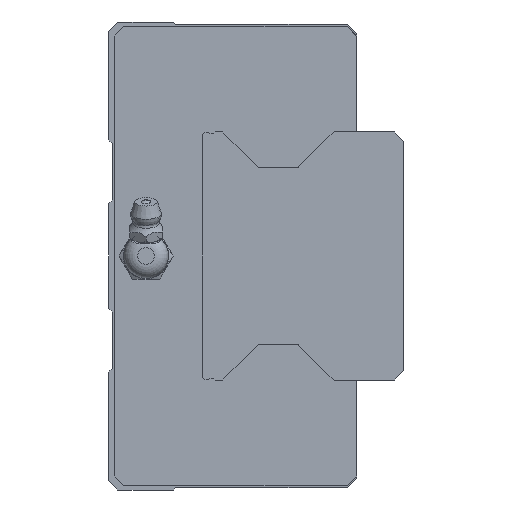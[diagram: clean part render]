
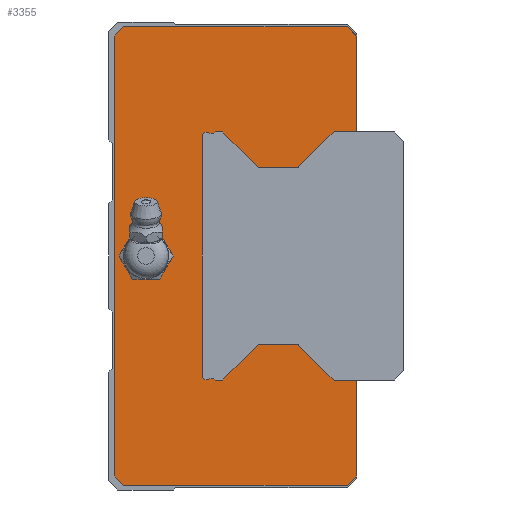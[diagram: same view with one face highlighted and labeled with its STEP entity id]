
A CAD part, left-side view. The second image highlights one B-rep face of the part: STEP entity #3355.
In plain terms, the highlighted planar face has unit normal (-1, 0, 0).
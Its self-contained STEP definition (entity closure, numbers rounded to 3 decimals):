
#169=CIRCLE('',#3668,4.864);
#170=CIRCLE('',#3669,0.29);
#171=CIRCLE('',#3670,0.29);
#172=CIRCLE('',#3671,1.);
#173=CIRCLE('',#3672,1.);
#174=CIRCLE('',#3673,0.29);
#175=CIRCLE('',#3674,0.29);
#657=ORIENTED_EDGE('',*,*,#1383,.T.);
#658=ORIENTED_EDGE('',*,*,#1384,.T.);
#659=ORIENTED_EDGE('',*,*,#1376,.F.);
#660=ORIENTED_EDGE('',*,*,#1348,.F.);
#661=ORIENTED_EDGE('',*,*,#1344,.F.);
#662=ORIENTED_EDGE('',*,*,#1336,.F.);
#663=ORIENTED_EDGE('',*,*,#1368,.F.);
#664=ORIENTED_EDGE('',*,*,#1321,.F.);
#665=ORIENTED_EDGE('',*,*,#1359,.F.);
#666=ORIENTED_EDGE('',*,*,#1356,.F.);
#667=ORIENTED_EDGE('',*,*,#1378,.F.);
#668=ORIENTED_EDGE('',*,*,#1385,.T.);
#669=ORIENTED_EDGE('',*,*,#1386,.T.);
#670=ORIENTED_EDGE('',*,*,#1387,.F.);
#671=ORIENTED_EDGE('',*,*,#1388,.T.);
#672=ORIENTED_EDGE('',*,*,#1389,.F.);
#673=ORIENTED_EDGE('',*,*,#1390,.T.);
#674=ORIENTED_EDGE('',*,*,#1391,.T.);
#675=ORIENTED_EDGE('',*,*,#1392,.T.);
#676=ORIENTED_EDGE('',*,*,#1393,.T.);
#677=ORIENTED_EDGE('',*,*,#1394,.T.);
#678=ORIENTED_EDGE('',*,*,#1395,.T.);
#679=ORIENTED_EDGE('',*,*,#1396,.T.);
#680=ORIENTED_EDGE('',*,*,#1397,.T.);
#681=ORIENTED_EDGE('',*,*,#1398,.T.);
#682=ORIENTED_EDGE('',*,*,#1399,.T.);
#683=ORIENTED_EDGE('',*,*,#1400,.T.);
#684=ORIENTED_EDGE('',*,*,#1401,.F.);
#685=ORIENTED_EDGE('',*,*,#1402,.T.);
#686=ORIENTED_EDGE('',*,*,#1403,.F.);
#687=ORIENTED_EDGE('',*,*,#1404,.T.);
#1321=EDGE_CURVE('',#1728,#1729,#2026,.T.);
#1336=EDGE_CURVE('',#1743,#1744,#2041,.T.);
#1344=EDGE_CURVE('',#1744,#1750,#2048,.T.);
#1348=EDGE_CURVE('',#1750,#1752,#2052,.T.);
#1356=EDGE_CURVE('',#1759,#1760,#2060,.T.);
#1359=EDGE_CURVE('',#1760,#1728,#2063,.T.);
#1368=EDGE_CURVE('',#1729,#1743,#2071,.T.);
#1376=EDGE_CURVE('',#1752,#1763,#2079,.T.);
#1378=EDGE_CURVE('',#1766,#1759,#2081,.T.);
#1383=EDGE_CURVE('',#1770,#1770,#169,.T.);
#1384=EDGE_CURVE('',#1771,#1763,#2086,.T.);
#1385=EDGE_CURVE('',#1766,#1772,#2087,.T.);
#1386=EDGE_CURVE('',#1772,#1773,#2088,.T.);
#1387=EDGE_CURVE('',#1774,#1773,#170,.T.);
#1388=EDGE_CURVE('',#1774,#1775,#2089,.T.);
#1389=EDGE_CURVE('',#1776,#1775,#171,.T.);
#1390=EDGE_CURVE('',#1776,#1777,#2090,.T.);
#1391=EDGE_CURVE('',#1777,#1778,#2091,.T.);
#1392=EDGE_CURVE('',#1778,#1779,#2092,.T.);
#1393=EDGE_CURVE('',#1779,#1780,#2093,.T.);
#1394=EDGE_CURVE('',#1780,#1781,#172,.T.);
#1395=EDGE_CURVE('',#1781,#1782,#2094,.T.);
#1396=EDGE_CURVE('',#1782,#1783,#173,.T.);
#1397=EDGE_CURVE('',#1783,#1784,#2095,.T.);
#1398=EDGE_CURVE('',#1784,#1785,#2096,.T.);
#1399=EDGE_CURVE('',#1785,#1786,#2097,.T.);
#1400=EDGE_CURVE('',#1786,#1787,#2098,.T.);
#1401=EDGE_CURVE('',#1788,#1787,#174,.T.);
#1402=EDGE_CURVE('',#1788,#1789,#2099,.T.);
#1403=EDGE_CURVE('',#1790,#1789,#175,.T.);
#1404=EDGE_CURVE('',#1790,#1771,#2100,.T.);
#1728=VERTEX_POINT('',#5184);
#1729=VERTEX_POINT('',#5186);
#1743=VERTEX_POINT('',#5215);
#1744=VERTEX_POINT('',#5217);
#1750=VERTEX_POINT('',#5233);
#1752=VERTEX_POINT('',#5240);
#1759=VERTEX_POINT('',#5255);
#1760=VERTEX_POINT('',#5257);
#1763=VERTEX_POINT('',#5282);
#1766=VERTEX_POINT('',#5292);
#1770=VERTEX_POINT('',#5303);
#1771=VERTEX_POINT('',#5305);
#1772=VERTEX_POINT('',#5307);
#1773=VERTEX_POINT('',#5309);
#1774=VERTEX_POINT('',#5311);
#1775=VERTEX_POINT('',#5313);
#1776=VERTEX_POINT('',#5315);
#1777=VERTEX_POINT('',#5317);
#1778=VERTEX_POINT('',#5319);
#1779=VERTEX_POINT('',#5321);
#1780=VERTEX_POINT('',#5323);
#1781=VERTEX_POINT('',#5325);
#1782=VERTEX_POINT('',#5327);
#1783=VERTEX_POINT('',#5329);
#1784=VERTEX_POINT('',#5331);
#1785=VERTEX_POINT('',#5333);
#1786=VERTEX_POINT('',#5335);
#1787=VERTEX_POINT('',#5337);
#1788=VERTEX_POINT('',#5339);
#1789=VERTEX_POINT('',#5341);
#1790=VERTEX_POINT('',#5343);
#2026=LINE('',#5185,#2314);
#2041=LINE('',#5216,#2329);
#2048=LINE('',#5232,#2336);
#2052=LINE('',#5239,#2340);
#2060=LINE('',#5256,#2348);
#2063=LINE('',#5261,#2351);
#2071=LINE('',#5275,#2359);
#2079=LINE('',#5289,#2367);
#2081=LINE('',#5294,#2369);
#2086=LINE('',#5304,#2374);
#2087=LINE('',#5306,#2375);
#2088=LINE('',#5308,#2376);
#2089=LINE('',#5312,#2377);
#2090=LINE('',#5316,#2378);
#2091=LINE('',#5318,#2379);
#2092=LINE('',#5320,#2380);
#2093=LINE('',#5322,#2381);
#2094=LINE('',#5326,#2382);
#2095=LINE('',#5330,#2383);
#2096=LINE('',#5332,#2384);
#2097=LINE('',#5334,#2385);
#2098=LINE('',#5336,#2386);
#2099=LINE('',#5340,#2387);
#2100=LINE('',#5344,#2388);
#2314=VECTOR('',#4232,1000.);
#2329=VECTOR('',#4249,1000.);
#2336=VECTOR('',#4262,1000.);
#2340=VECTOR('',#4268,1000.);
#2348=VECTOR('',#4278,1000.);
#2351=VECTOR('',#4283,1000.);
#2359=VECTOR('',#4301,1000.);
#2367=VECTOR('',#4313,1000.);
#2369=VECTOR('',#4317,1000.);
#2374=VECTOR('',#4326,1000.);
#2375=VECTOR('',#4327,1000.);
#2376=VECTOR('',#4328,1000.);
#2377=VECTOR('',#4331,1000.);
#2378=VECTOR('',#4334,1000.);
#2379=VECTOR('',#4335,1000.);
#2380=VECTOR('',#4336,1000.);
#2381=VECTOR('',#4337,1000.);
#2382=VECTOR('',#4340,1000.);
#2383=VECTOR('',#4343,1000.);
#2384=VECTOR('',#4344,1000.);
#2385=VECTOR('',#4345,1000.);
#2386=VECTOR('',#4346,1000.);
#2387=VECTOR('',#4349,1000.);
#2388=VECTOR('',#4352,1000.);
#2654=EDGE_LOOP('',(#657));
#2655=EDGE_LOOP('',(#658,#659,#660,#661,#662,#663,#664,#665,#666,#667,#668,
#669,#670,#671,#672,#673,#674,#675,#676,#677,#678,#679,#680,#681,#682,#683,
#684,#685,#686,#687));
#2971=FACE_BOUND('',#2654,.T.);
#2972=FACE_BOUND('',#2655,.T.);
#3195=PLANE('',#3667);
#3355=ADVANCED_FACE('',(#2971,#2972),#3195,.F.);
#3667=AXIS2_PLACEMENT_3D('',#5301,#4322,#4323);
#3668=AXIS2_PLACEMENT_3D('',#5302,#4324,#4325);
#3669=AXIS2_PLACEMENT_3D('',#5310,#4329,#4330);
#3670=AXIS2_PLACEMENT_3D('',#5314,#4332,#4333);
#3671=AXIS2_PLACEMENT_3D('',#5324,#4338,#4339);
#3672=AXIS2_PLACEMENT_3D('',#5328,#4341,#4342);
#3673=AXIS2_PLACEMENT_3D('',#5338,#4347,#4348);
#3674=AXIS2_PLACEMENT_3D('',#5342,#4350,#4351);
#4232=DIRECTION('',(0.,0.707,0.707));
#4249=DIRECTION('',(0.,-0.707,0.707));
#4262=DIRECTION('',(0.,-1.,0.));
#4268=DIRECTION('',(0.,-0.707,-0.707));
#4278=DIRECTION('',(0.,0.707,-0.707));
#4283=DIRECTION('',(0.,1.,0.));
#4301=DIRECTION('',(0.,0.,1.));
#4313=DIRECTION('',(0.,0.,-1.));
#4317=DIRECTION('',(0.,0.,-1.));
#4322=DIRECTION('',(1.,0.,0.));
#4323=DIRECTION('',(0.,0.,-1.));
#4324=DIRECTION('',(1.,0.,0.));
#4325=DIRECTION('',(0.,0.,-1.));
#4326=DIRECTION('',(0.,-1.,0.));
#4327=DIRECTION('',(0.,1.,0.));
#4328=DIRECTION('',(0.,0.712,0.702));
#4329=DIRECTION('',(1.,0.,0.));
#4330=DIRECTION('',(0.,0.,-1.));
#4331=DIRECTION('',(0.,1.,0.));
#4332=DIRECTION('',(1.,0.,0.));
#4333=DIRECTION('',(0.,0.,-1.));
#4334=DIRECTION('',(0.,0.707,-0.707));
#4335=DIRECTION('',(0.,1.,0.));
#4336=DIRECTION('',(0.,0.707,0.707));
#4337=DIRECTION('',(0.,1.,0.));
#4338=DIRECTION('',(1.,0.,0.));
#4339=DIRECTION('',(0.,0.,-1.));
#4340=DIRECTION('',(0.,0.,1.));
#4341=DIRECTION('',(1.,0.,0.));
#4342=DIRECTION('',(0.,0.,-1.));
#4343=DIRECTION('',(0.,-1.,0.));
#4344=DIRECTION('',(0.,-0.707,0.707));
#4345=DIRECTION('',(0.,-1.,0.));
#4346=DIRECTION('',(0.,-0.707,-0.707));
#4347=DIRECTION('',(1.,0.,0.));
#4348=DIRECTION('',(0.,0.,-1.));
#4349=DIRECTION('',(0.,-1.,0.));
#4350=DIRECTION('',(1.,0.,0.));
#4351=DIRECTION('',(0.,0.,-1.));
#4352=DIRECTION('',(0.,-0.712,0.702));
#5184=CARTESIAN_POINT('',(-92.5,49.8,-49.));
#5185=CARTESIAN_POINT('',(-92.5,49.8,-49.));
#5186=CARTESIAN_POINT('',(-92.5,51.8,-47.));
#5215=CARTESIAN_POINT('',(-92.5,51.8,47.));
#5216=CARTESIAN_POINT('',(-92.5,51.8,47.));
#5217=CARTESIAN_POINT('',(-92.5,49.8,49.));
#5232=CARTESIAN_POINT('',(-92.5,49.8,49.));
#5233=CARTESIAN_POINT('',(-92.5,2.,49.));
#5239=CARTESIAN_POINT('',(-92.5,2.,49.));
#5240=CARTESIAN_POINT('',(-92.5,0.,47.));
#5255=CARTESIAN_POINT('',(-92.5,0.,-47.));
#5256=CARTESIAN_POINT('',(-92.5,0.,-47.));
#5257=CARTESIAN_POINT('',(-92.5,2.,-49.));
#5261=CARTESIAN_POINT('',(-92.5,2.,-49.));
#5275=CARTESIAN_POINT('',(-92.5,51.8,-47.));
#5282=CARTESIAN_POINT('',(-92.5,0.,26.5));
#5289=CARTESIAN_POINT('',(-92.5,0.,47.));
#5292=CARTESIAN_POINT('',(-92.5,0.,-26.5));
#5294=CARTESIAN_POINT('',(-92.5,0.,47.));
#5301=CARTESIAN_POINT('',(-92.5,0.,0.));
#5302=CARTESIAN_POINT('',(-92.5,45.,0.));
#5303=CARTESIAN_POINT('',(-92.5,45.,-4.864));
#5304=CARTESIAN_POINT('',(-92.5,4.83,26.5));
#5305=CARTESIAN_POINT('',(-92.5,4.83,26.5));
#5306=CARTESIAN_POINT('',(-92.5,-8.,-26.5));
#5307=CARTESIAN_POINT('',(-92.5,4.83,-26.5));
#5308=CARTESIAN_POINT('',(-92.5,4.83,-26.5));
#5309=CARTESIAN_POINT('',(-92.5,12.345,-19.084));
#5310=CARTESIAN_POINT('',(-92.5,12.549,-19.29));
#5311=CARTESIAN_POINT('',(-92.5,12.549,-19.));
#5312=CARTESIAN_POINT('',(-92.5,12.549,-19.));
#5313=CARTESIAN_POINT('',(-92.5,20.98,-19.));
#5314=CARTESIAN_POINT('',(-92.5,20.98,-19.29));
#5315=CARTESIAN_POINT('',(-92.5,21.185,-19.085));
#5316=CARTESIAN_POINT('',(-92.5,21.185,-19.085));
#5317=CARTESIAN_POINT('',(-92.5,28.6,-26.5));
#5318=CARTESIAN_POINT('',(-92.5,28.6,-26.5));
#5319=CARTESIAN_POINT('',(-92.5,30.25,-26.5));
#5320=CARTESIAN_POINT('',(-92.5,30.25,-26.5));
#5321=CARTESIAN_POINT('',(-92.5,30.5,-26.25));
#5322=CARTESIAN_POINT('',(-92.5,30.5,-26.25));
#5323=CARTESIAN_POINT('',(-92.5,31.339,-26.25));
#5324=CARTESIAN_POINT('',(-92.5,32.,-25.5));
#5325=CARTESIAN_POINT('',(-92.5,33.,-25.5));
#5326=CARTESIAN_POINT('',(-92.5,33.,-25.5));
#5327=CARTESIAN_POINT('',(-92.5,33.,25.5));
#5328=CARTESIAN_POINT('',(-92.5,32.,25.5));
#5329=CARTESIAN_POINT('',(-92.5,31.339,26.25));
#5330=CARTESIAN_POINT('',(-92.5,31.339,26.25));
#5331=CARTESIAN_POINT('',(-92.5,30.5,26.25));
#5332=CARTESIAN_POINT('',(-92.5,30.5,26.25));
#5333=CARTESIAN_POINT('',(-92.5,30.25,26.5));
#5334=CARTESIAN_POINT('',(-92.5,30.25,26.5));
#5335=CARTESIAN_POINT('',(-92.5,28.6,26.5));
#5336=CARTESIAN_POINT('',(-92.5,28.6,26.5));
#5337=CARTESIAN_POINT('',(-92.5,21.185,19.085));
#5338=CARTESIAN_POINT('',(-92.5,20.98,19.29));
#5339=CARTESIAN_POINT('',(-92.5,20.98,19.));
#5340=CARTESIAN_POINT('',(-92.5,20.98,19.));
#5341=CARTESIAN_POINT('',(-92.5,12.549,19.));
#5342=CARTESIAN_POINT('',(-92.5,12.549,19.29));
#5343=CARTESIAN_POINT('',(-92.5,12.345,19.084));
#5344=CARTESIAN_POINT('',(-92.5,12.345,19.084));
